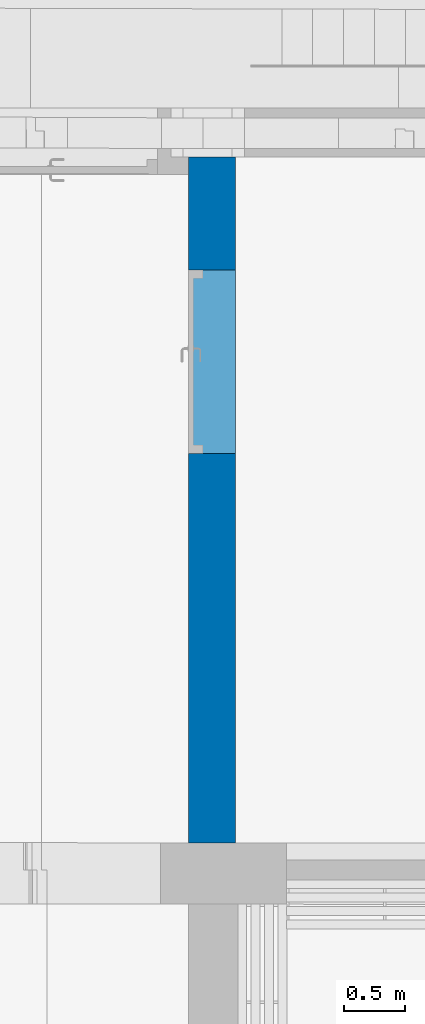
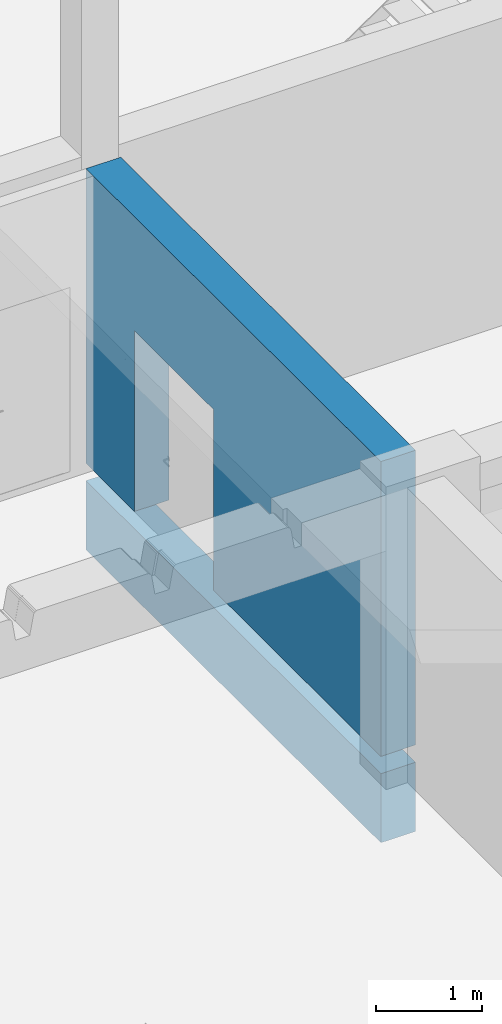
# One storey, part 116 of 301: 1 wall, 1 opening.
"""IFC2X3 building model written with IfcOpenShell, lengths in millimetres."""

import ifcopenshell
import ifcopenshell.guid

model = None  # the IFC model being written
_history = None  # IfcOwnerHistory: only IFC2X3 demands one
_inside = {}  # id of a spatial element -> (the spatial element, [elements in it])
_under = {}  # id of a project, library or spatial element -> (it, [spatial elements below it])
_declared = {}  # id of a project -> (the project, [libraries it declares])
_typed = {}  # id of a type object -> (the type object, [elements of that type])
_made_of = {}  # id of a material, layer set ... -> (it, [elements and type objects made of it])


def new_model(schema):
    """Start an empty IFC model of exactly this schema.

    Asked for "IFC4X3", IfcOpenShell would pick the latest addendum, in which some entities
    have other attributes; the version numbers below select the first issue.
    IFC2X3 requires an IfcOwnerHistory on every rooted entity: one is made here for all.
    """
    global model, _history
    if schema == "IFC4X3":
        model = ifcopenshell.file(schema_version=(4, 3, 0, 0))
    else:
        model = ifcopenshell.file(schema=schema)
    _inside.clear()
    _under.clear()
    _declared.clear()
    _typed.clear()
    _made_of.clear()
    _history = None
    if model.schema == "IFC2X3":
        org = make("IfcOrganization", Name="unknown")
        user = make(
            "IfcPersonAndOrganization",
            ThePerson=make("IfcPerson", FamilyName="unknown"),
            TheOrganization=org,
        )
        app = make(
            "IfcApplication",
            ApplicationDeveloper=org,
            Version="unknown",
            ApplicationFullName="unknown",
            ApplicationIdentifier="unknown",
        )
        _history = make(
            "IfcOwnerHistory",
            OwningUser=user,
            OwningApplication=app,
            ChangeAction="ADDED",
            CreationDate=0,
        )
    return model


def make(cls, **values):
    """One entity of the class cls with the attributes given. An attribute that is None is left unset."""
    return model.create_entity(
        cls, **{name: value for name, value in values.items() if value is not None}
    )


def entity(cls, *values):
    """Any entity or typed value of the class cls, its attributes in the order of the schema. None: left unset."""
    e = model.create_entity(cls)
    for i, value in enumerate(values):
        if value is not None:
            e[i] = value
    return e


def rooted(cls, **values):
    """An entity with a GlobalId (a new one), such as an element, a storey or a relation."""
    return make(cls, GlobalId=ifcopenshell.guid.new(), OwnerHistory=_history, **values)


def si_unit(unit_type, name, prefix=None):
    """IfcSIUnit, for example si_unit("LENGTHUNIT", "METRE", prefix="MILLI")."""
    return make("IfcSIUnit", UnitType=unit_type, Prefix=prefix, Name=name)


def converted_unit(unit_type, name, factor, base, dimensions=None, offset=None):
    """IfcConversionBasedUnit, such as the inch: factor (a typed value) times the base unit."""
    return make(
        "IfcConversionBasedUnit"
        if offset is None
        else "IfcConversionBasedUnitWithOffset",
        ConversionOffset=offset,
        Dimensions=None
        if dimensions is None
        else entity("IfcDimensionalExponents", *dimensions),
        UnitType=unit_type,
        Name=name,
        ConversionFactor=make(
            "IfcMeasureWithUnit", ValueComponent=factor, UnitComponent=base
        ),
    )


def derived_unit(unit_type, elements):
    """IfcDerivedUnit: a product of units, each with its exponent."""
    return make(
        "IfcDerivedUnit",
        Elements=[
            make("IfcDerivedUnitElement", Unit=unit, Exponent=power)
            for unit, power in elements
        ],
        UnitType=unit_type,
    )


def money_unit(currency):
    """IfcMonetaryUnit."""
    return make("IfcMonetaryUnit", Currency=currency)


def assignment(units):
    """IfcUnitAssignment: the units of a project."""
    return None if units is None else make("IfcUnitAssignment", Units=units)


def point(xyz):
    """IfcCartesianPoint."""
    return None if xyz is None else make("IfcCartesianPoint", Coordinates=xyz)


def direction(xyz):
    """IfcDirection."""
    return None if xyz is None else make("IfcDirection", DirectionRatios=xyz)


def frame(location, z_axis=None, x_axis=None):
    """IfcAxis2Placement3D, a coordinate frame: its origin and axes. An axis left out is left unset."""
    return make(
        "IfcAxis2Placement3D",
        Location=point(location),
        Axis=direction(z_axis),
        RefDirection=direction(x_axis),
    )


def origin_with_axes():
    """The frame at (0, 0, 0) with the z axis (0, 0, 1) and the x axis (1, 0, 0) written out."""
    return frame((0.0, 0.0, 0.0), z_axis=(0.0, 0.0, 1.0), x_axis=(1.0, 0.0, 0.0))


def place(relative_to, where):
    """IfcLocalPlacement: puts the frame where relative to a parent placement (None: the world)."""
    return make(
        "IfcLocalPlacement", PlacementRelTo=relative_to, RelativePlacement=where
    )


def context(
    kind, dimensions, precision=None, world=None, true_north=None, identifier=None
):
    """IfcGeometricRepresentationContext, for example the 3D "Model" context."""
    return make(
        "IfcGeometricRepresentationContext",
        ContextIdentifier=identifier,
        ContextType=kind,
        CoordinateSpaceDimension=dimensions,
        Precision=precision,
        WorldCoordinateSystem=world,
        TrueNorth=true_north,
    )


def subcontext(parent, identifier, kind, view, scale=None):
    """IfcGeometricRepresentationSubContext, for example "Body" below "Model"."""
    return make(
        "IfcGeometricRepresentationSubContext",
        ContextIdentifier=identifier,
        ContextType=kind,
        ParentContext=parent,
        TargetScale=scale,
        TargetView=view,
    )


def project(units=None, contexts=None):
    """IfcProject with its units and contexts."""
    return rooted(
        "IfcProject",
        Name="project",
        RepresentationContexts=contexts,
        UnitsInContext=assignment(units),
    )


def spatial(cls, under=None, at=None, **own):
    """A site, building, storey or space (cls), placed at a placement, below another one or the project."""
    s = rooted(cls, ObjectPlacement=at, **own)
    if under is not None:
        _under.setdefault(under.id(), (under, []))[1].append(s)
    return s


def faces_of(points, faces, orient=None, outer=None):
    """IfcFace entities. A face is a list of loops; a loop is a list of indices into points, from 0.

    orient and outer hold one flag for each loop. By default every Orientation is true, the
    first loop of a face is its IfcFaceOuterBound and the others are IfcFaceBound.
    """
    made = []
    for i, loops in enumerate(faces):
        bounds = []
        for j, loop in enumerate(loops):
            is_outer = j == 0 if outer is None else outer[i][j]
            bounds.append(
                make(
                    "IfcFaceOuterBound" if is_outer else "IfcFaceBound",
                    Bound=make("IfcPolyLoop", Polygon=[points[k] for k in loop]),
                    Orientation=True if orient is None else orient[i][j],
                )
            )
        made.append(make("IfcFace", Bounds=bounds))
    return made


def faceted_brep(points, faces, orient=None, outer=None, voids=None):
    """IfcFacetedBrep: a solid bounded by flat faces; with voids (closed shells), ...WithVoids."""
    shared = [point(p) for p in points]
    hull = make("IfcClosedShell", CfsFaces=faces_of(shared, faces, orient, outer))
    if voids is None:
        return make("IfcFacetedBrep", Outer=hull)
    return make(
        "IfcFacetedBrepWithVoids",
        Outer=hull,
        Voids=[
            make(cls, CfsFaces=faces_of(shared, fs, o, b)) for cls, fs, o, b in voids
        ],
    )


def shape(context_of_items, identifier, shape_type, items):
    """IfcShapeRepresentation: the items that make up one representation, for example the "Body"."""
    return make(
        "IfcShapeRepresentation",
        ContextOfItems=context_of_items,
        RepresentationIdentifier=identifier,
        RepresentationType=shape_type,
        Items=items,
    )


def material(Name=None, Category=None):
    """IfcMaterial."""
    return make("IfcMaterial", Name=Name, Category=Category)


def made_of(thing, what):
    """Note that an element or type object is made of a material, layer set ...; save() writes the relation."""
    if what is not None:
        _made_of.setdefault(what.id(), (what, []))[1].append(thing)
    return thing


def type_object(cls, material=None, **own):
    """A type object (cls), such as IfcWallType, which elements share."""
    return made_of(rooted(cls, **own), material)


def element(
    cls,
    number,
    at=None,
    inside=None,
    cuts=None,
    type_object=None,
    material=None,
    context=None,
    identifier="Body",
    shape_type=None,
    held_by="IfcProductDefinitionShape",
    body=None,
    shapes=None,
    **own,
):
    """One element of the class cls, such as IfcWall. Its Tag is "e" and its number.

    at: its placement. inside: the storey or other place that contains it. cuts: it is an
    opening in that element (IfcRelVoidsElement). A single representation is given by context,
    identifier, shape_type and body (its items); several are given by shapes. held_by: the class
    of the entity that holds the representations. save() writes the other relations.
    """
    e = rooted(cls, Tag="e%d" % number, ObjectPlacement=at, **own)
    if body is not None:
        shapes = [shape(context, identifier, shape_type, body)]
    if shapes is not None:
        e.Representation = make(held_by, Representations=shapes)
    if inside is not None:
        _inside.setdefault(inside.id(), (inside, []))[1].append(e)
    if cuts is not None:
        rooted(
            "IfcRelVoidsElement", RelatingBuildingElement=cuts, RelatedOpeningElement=e
        )
    if type_object is not None:
        _typed.setdefault(type_object.id(), (type_object, []))[1].append(e)
    return made_of(e, material)


def aggregate(whole, parts):
    """IfcRelAggregates: a whole, such as a stair, and the parts it consists of."""
    return rooted("IfcRelAggregates", RelatingObject=whole, RelatedObjects=parts)


def save(model, path):
    """Write the relations noted so far, then the file.

    IfcRelAggregates (storeys below a building ...), IfcRelContainedInSpatialStructure (elements
    in a storey), IfcRelDefinesByType, IfcRelAssociatesMaterial and IfcRelDeclares: one each for
    every whole, place, type object, material and project.
    """
    for whole, parts in _under.values():
        aggregate(whole, parts)
    for where, things in _inside.values():
        rooted(
            "IfcRelContainedInSpatialStructure",
            RelatedElements=things,
            RelatingStructure=where,
        )
    for kind, things in _typed.values():
        rooted("IfcRelDefinesByType", RelatedObjects=things, RelatingType=kind)
    for what, things in _made_of.values():
        rooted("IfcRelAssociatesMaterial", RelatedObjects=things, RelatingMaterial=what)
    for by, libraries in _declared.values():
        rooted("IfcRelDeclares", RelatingContext=by, RelatedDefinitions=libraries)
    model.write(path)


model = new_model("IFC2X3")

# Units and contexts
model_context = context("Model", 3, precision=0.01, world=origin_with_axes(), true_north=direction((0.0, 1.0)))
body_context = subcontext(model_context, "Body", "Model", "MODEL_VIEW")
ifc_project = project(units=[si_unit("LENGTHUNIT", "METRE", prefix="MILLI"), si_unit("AREAUNIT", "SQUARE_METRE"), si_unit("VOLUMEUNIT", "CUBIC_METRE"), converted_unit("PLANEANGLEUNIT", "DEGREE", entity("IfcPlaneAngleMeasure", 0.0174532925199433), si_unit("PLANEANGLEUNIT", "RADIAN"), dimensions=[0, 0, 0, 0, 0, 0, 0]), money_unit("EUR"), converted_unit("TIMEUNIT", "Year", entity("IfcTimeMeasure", 31557600.0), si_unit("TIMEUNIT", "SECOND"), dimensions=[0, 0, 1, 0, 0, 0, 0]), si_unit("MASSUNIT", "GRAM", prefix="KILO"), si_unit("THERMODYNAMICTEMPERATUREUNIT", "DEGREE_CELSIUS"), si_unit("LUMINOUSINTENSITYUNIT", "LUMEN"), si_unit("ENERGYUNIT", "JOULE", prefix="MEGA"), derived_unit("THERMALCONDUCTANCEUNIT", [(si_unit("POWERUNIT", "WATT"), 1), (si_unit("LENGTHUNIT", "METRE"), -1), (si_unit("THERMODYNAMICTEMPERATUREUNIT", "KELVIN"), -1)]), derived_unit("SPECIFICHEATCAPACITYUNIT", [(si_unit("ENERGYUNIT", "JOULE"), 1), (si_unit("MASSUNIT", "GRAM", prefix="KILO"), -1), (si_unit("THERMODYNAMICTEMPERATUREUNIT", "KELVIN"), -1)]), derived_unit("MASSDENSITYUNIT", [(si_unit("MASSUNIT", "GRAM", prefix="KILO"), 1), (si_unit("VOLUMEUNIT", "CUBIC_METRE"), -1)])], contexts=[model_context])

# Site, building, storey
site_placement = place(None, frame((0.0, 0.0, 8650.0), z_axis=(0.0, 0.0, 1.0), x_axis=(1.0, 0.0, 0.0)))
site = spatial("IfcSite", under=ifc_project, at=site_placement, Name="43301:001:0844", CompositionType="ELEMENT")
building_placement = place(site_placement, origin_with_axes())
building = spatial("IfcBuilding", under=site, at=building_placement, Name="Kuressaare Ametikooli tuulikute mehaanikute õppekorpus", CompositionType="ELEMENT")
storey_placement = place(building_placement, origin_with_axes())
storey = spatial("IfcBuildingStorey", under=building, at=storey_placement, Name="1.korrus", CompositionType="ELEMENT", Elevation=0.0)

# Wall, opening
ifc_material = material(Name="GENEERILINE - KONSTRUKTRIOON")
wall_type = type_object("IfcWallType", Name="GENEERILINE - KONSTRUKTRIOON 380", PredefinedType="NOTDEFINED")
wall_placement = place(storey_placement, frame((95547.90111654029, 32254.84553633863, -1000.0), z_axis=(0.0, 0.0, 1.0), x_axis=(0.0, 1.0, 0.0)))
wall = element("IfcWall", 1, at=wall_placement, inside=storey, type_object=wall_type, material=ifc_material, context=body_context, shape_type="Brep", body=[
    faceted_brep([(5590.926128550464, -379.9999999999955, 0.0), (5590.926128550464, 0.0, 0.0), (5590.926128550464, 0.0, 799.9999999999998), (5590.926128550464, -379.9999999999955, 799.9999999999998), (0.0, -379.9999999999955, 0.0), (0.0, 0.0, 0.0), (2.762711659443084e-05, -1.779237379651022e-05, 799.9999999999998), (5.45702008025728e-05, -379.9999999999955, 799.9999999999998)], [[[0, 1, 2, 3]], [[4, 5, 1, 0]], [[1, 5, 6, 2]], [[2, 6, 7, 3]], [[4, 0, 3, 7]], [[5, 4, 7, 6]]]),
    faceted_brep([(3172.605104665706, -379.9999999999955, 1000.0), (3172.605104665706, -379.9999999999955, 3090.0), (4672.605104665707, -379.9999999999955, 3090.0), (4672.605104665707, -379.9999999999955, 1000.0), (5590.926128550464, -379.9999999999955, 1000.0), (5590.926128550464, -379.9999999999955, 4410.0), (0.0, -379.9999999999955, 4410.0), (5.45702008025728e-05, -379.9999999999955, 1000.0), (3172.605104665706, -7.695987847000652e-06, 1000.0), (3172.605104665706, 0.0, 3090.0), (4672.605104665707, 0.0, 3090.0), (4672.605104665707, -2.922433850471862e-06, 1000.0), (5590.926128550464, 0.0, 1000.0), (5590.926128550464, 0.0, 4410.0), (0.0, 0.0, 4410.0), (2.762711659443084e-05, -1.779237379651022e-05, 1000.0)], [[[0, 1, 2, 3, 4, 5, 6, 7]], [[1, 0, 8, 9]], [[2, 1, 9, 10]], [[3, 2, 10, 11]], [[3, 11, 12, 4]], [[5, 4, 12, 13]], [[6, 5, 13, 14]], [[14, 15, 7, 6]], [[8, 0, 7, 15]], [[9, 8, 15, 14, 13, 12, 11, 10]]]),
])
opening_placement = place(wall_placement, frame((3922.605104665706, 0.0, 1000.0), z_axis=(0.0, 0.0, 1.0), x_axis=(1.0, 0.0, 0.0)))
element("IfcOpeningElement", 2, at=opening_placement, cuts=wall, context=body_context, shape_type="Brep", body=[
    faceted_brep([(-750.0, -381.0000000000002, 2090.0), (-750.0, -381.0000000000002, 0.0), (750.0, -381.0000000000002, 0.0), (750.0, -381.0000000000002, 2090.0), (-750.0, 1.000000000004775, 2090.0), (-750.0, 1.000000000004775, 0.0), (750.0, 1.000000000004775, 0.0), (750.0, 1.000000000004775, 2090.0)], [[[0, 1, 2, 3]], [[4, 5, 1, 0]], [[5, 6, 2, 1]], [[6, 7, 3, 2]], [[7, 4, 0, 3]], [[6, 5, 4, 7]]]),
])

save(model, "model.ifc")
